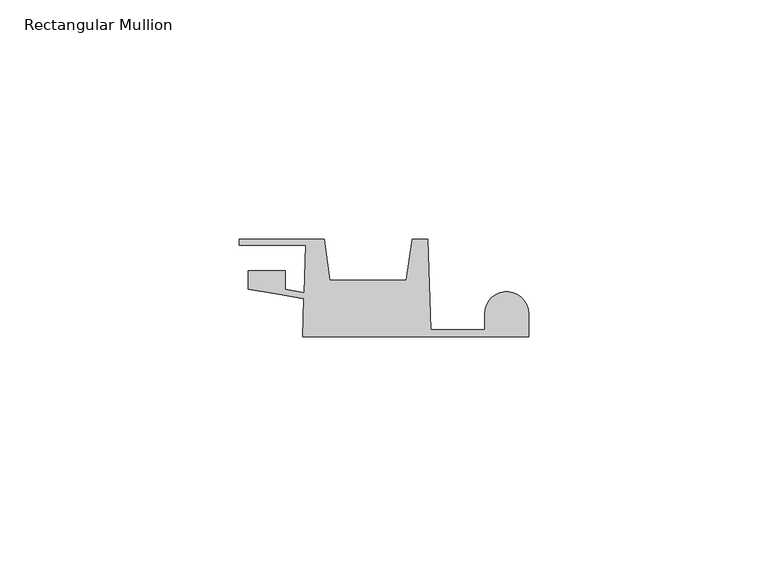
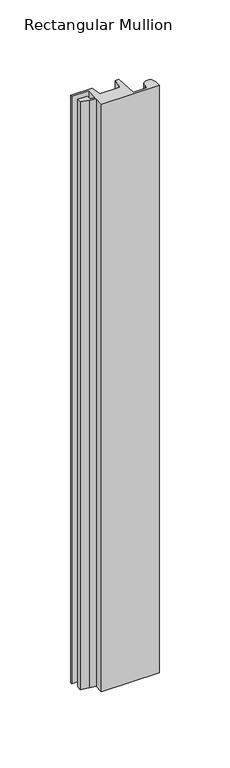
"""IFC4 building model written with IfcOpenShell, lengths in millimetres: member geometry, Rectangular Mullion : QuickPanel-Reveal_Multi-Angle-Inside-Corner-Trim-Left."""

from ifc_helpers import new_model, si_unit, point, frame, frame_2d, origin, place, context, project, spatial, polyline, circle_curve, trimmed, segment, composite_curve, outline, extrude, source, transform, mapped, element, save


def rectangular_mullion_638b4d6f(model_context):
    return source(origin(), model_context, "Body", "SweptSolid", [
        extrude(outline(composite_curve([segment(polyline([(-47.1501229, -8.095605), (-46.8743766, -0.1992641), (-52.1246575, 0.7008023), (-58.5599901, 1.8040245), (-58.5599901, 5.6493034), (-50.815217, 5.6493034), (-50.815217, 1.7648465), (-46.8296481, 1.0815922), (-46.485721, 10.9303752), (-60.3420745, 10.9303752), (-60.3420745, 12.1803727), (-42.6931018, 12.1803727), (-41.5043841, 3.7222065), (-25.4912576, 3.7222065), (-24.3025399, 12.1803727), (-21.0443089, 12.1803727), (-20.3850086, -6.6995181), (-9.144, -6.6995181), (-9.144, -3.3003083)]), True, "CONTINUOUS"), segment(trimmed(circle_curve(frame_2d((-4.572, -3.3003083)), 4.572), [point((-9.144, -3.3003083))], [point((0.0, -3.3003083))], False, "CARTESIAN"), True, "CONTINUOUS"), segment(polyline([(0.0, -3.3003083), (0.0, -8.095605), (-47.1501229, -8.095605)]), True, "CONTINUOUS")], self_intersect=False)), frame((0.0, 0.0, -506.5685975), z_axis=(0.0, 0.0, 1.0), x_axis=(1.0, 0.0, 0.0)), (0.0, 0.0, 1.0), 506.5685975),
    ])


if __name__ == "__main__":
    model = new_model("IFC4")
    model_context = context("Model", 3, world=origin())
    ifc_project = project(units=[si_unit("LENGTHUNIT", "METRE", prefix="MILLI")], contexts=[model_context])
    site = spatial("IfcSite", under=ifc_project)
    building = spatial("IfcBuilding", under=site)
    placement = place(None, origin())
    rectangular_mullion_shape = rectangular_mullion_638b4d6f(model_context)
    element("IfcMember", 1, ObjectType="Rectangular Mullion : QuickPanel-Reveal_Multi-Angle-Inside-Corner-Trim-Left", at=placement, inside=building, context=model_context, shape_type="MappedRepresentation", body=[
        mapped(rectangular_mullion_shape, transform((0.0, 0.0, 0.0), x_axis=(1.0, 0.0, 0.0), y_axis=(0.0, 1.0, 0.0), z_axis=(0.0, 0.0, 1.0))),
    ])
    save(model, "model.ifc")
